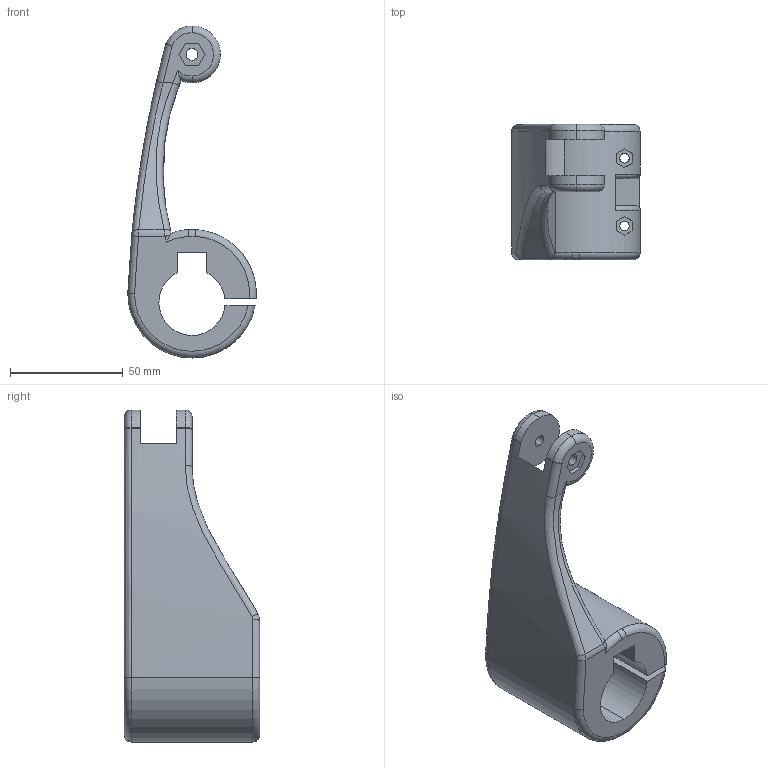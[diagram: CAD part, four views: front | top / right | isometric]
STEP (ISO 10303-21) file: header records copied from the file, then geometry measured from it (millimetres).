
FILE_DESCRIPTION (( 'STEP AP203' ), '1' );
FILE_NAME ('BodyR.STEP', '2020-10-24T03:16:56', ( '' ), ( '' ), 'SwSTEP 2.0', 'SolidWorks 2019', '' );
FILE_SCHEMA (( 'CONFIG_CONTROL_DESIGN' ));
Length unit declared in the file: millimetre
Products named in the file (1): BodyR
Bounding box: 57 x 60 x 147.3 mm (x, y, z)
Volume: 144538.1 mm3; surface area: 33042 mm2
Topology: 1 solids, 1 shells, 105 faces, 267 edges, 169 vertices
Faces by surface type: plane 37, cylinder 37, torus 15, bspline 14, sphere 2
Entity records: 4162 total; most frequent: CARTESIAN_POINT 1607, ORIENTED_EDGE 532, DIRECTION 499, EDGE_CURVE 266, AXIS2_PLACEMENT_3D 194, VERTEX_POINT 169, EDGE_LOOP 123, LINE 111
